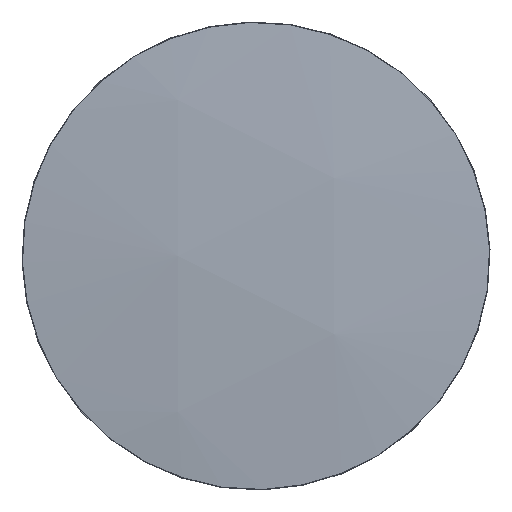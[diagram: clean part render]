
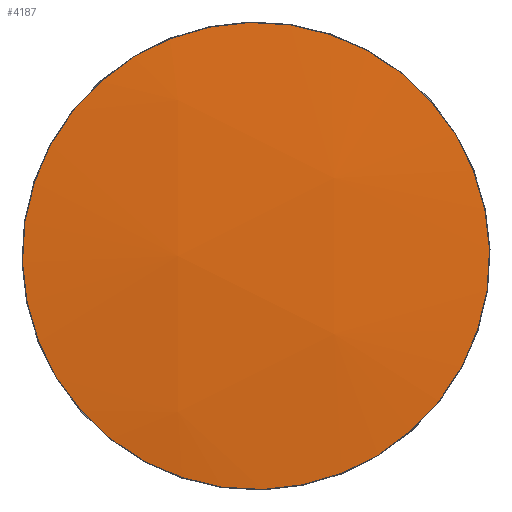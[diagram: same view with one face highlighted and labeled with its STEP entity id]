
A CAD part, top view. The second image highlights one B-rep face of the part: STEP entity #4187.
In plain terms, the highlighted spherical face has radius 300 mm.
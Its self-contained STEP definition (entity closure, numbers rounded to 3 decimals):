
#89=SPHERICAL_SURFACE('',#4473,300.);
#942=FACE_OUTER_BOUND('',#1189,.T.);
#1189=EDGE_LOOP('',(#2773));
#1467=CIRCLE('',#4462,31.93);
#1672=VERTEX_POINT('',#6393);
#2091=EDGE_CURVE('',#1672,#1672,#1467,.T.);
#2773=ORIENTED_EDGE('',*,*,#2091,.T.);
#4187=ADVANCED_FACE('',(#942),#89,.T.);
#4462=AXIS2_PLACEMENT_3D('',#6394,#5033,#5034);
#4473=AXIS2_PLACEMENT_3D('',#6465,#5061,#5062);
#5033=DIRECTION('center_axis',(0.,0.,
1.));
#5034=DIRECTION('ref_axis',(0.479,-0.878,0.));
#5061=DIRECTION('center_axis',(1.,0.,0.));
#5062=DIRECTION('ref_axis',(0.,-1.,0.));
#6393=CARTESIAN_POINT('',(6.4,-31.282,81.996));
#6394=CARTESIAN_POINT('Origin',(0.,0.,
81.996));
#6465=CARTESIAN_POINT('Origin',(0.,0.,
-216.3));
